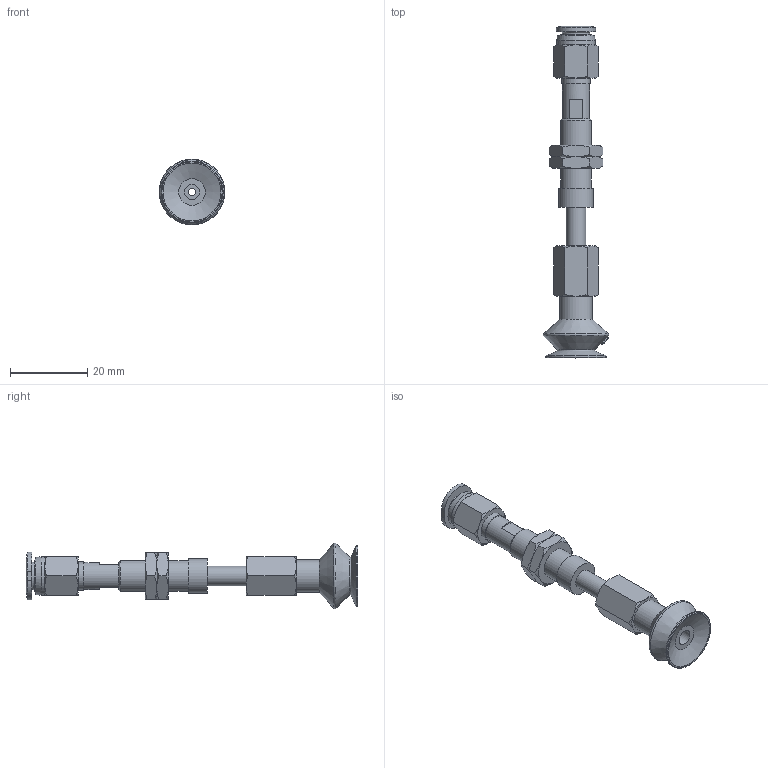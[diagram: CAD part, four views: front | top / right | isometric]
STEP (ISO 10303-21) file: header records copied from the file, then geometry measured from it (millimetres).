
FILE_DESCRIPTION(('STEP AP203'),'1');
FILE_NAME('-O.stp','2025-08-27T01:05:15',(' '),(' '),'Spatial InterOp 3D',' ',' ');
FILE_SCHEMA(('CONFIG_CONTROL_DESIGN'));
Length unit declared in the file: millimetre
Products named in the file (9): BNABPBTS-15A-10-※-O; ADAPTER; NAPATS-10A-10--M; Nut-15A-S-PB; NAPBTS-15A-10--F; BPBG-15A-※; __27; BPBG-15A; PC-C_06-M5
Assembly tree (9 placements, depth 3):
  BNABPBTS-15A-10-※-O
    ADAPTER
    NAPATS-10A-10--M
    Nut-15A-S-PB  x2
    NAPBTS-15A-10--F
    BPBG-15A-※
      __27
      BPBG-15A
    PC-C_06-M5
Bounding box: 16.99 x 85.98 x 16.99 mm (x, y, z)
Volume: 4592 mm3; surface area: 5947 mm2
Topology: 7 solids, 10 shells, 179 faces, 374 edges, 228 vertices
Faces by surface type: cone 66, plane 59, cylinder 26, torus 13, bspline 12, revolution 3
Full cylindrical faces by diameter (mm): 2 x2, 4 x5, 4.134 x1, 5 x3, 6 x2, 7 x2, 7.188 x2, 7.4 x1, 8 x1, 8.2 x1, 8.5 x1, 9 x1, 10 x1, 16 x1
Entity records: 5773 total; most frequent: CARTESIAN_POINT 2432, DIRECTION 590, ORIENTED_EDGE 518, AXIS2_PLACEMENT_3D 270, EDGE_CURVE 261, EDGE_LOOP 233, VERTEX_POINT 186, FACE_OUTER_BOUND 132
